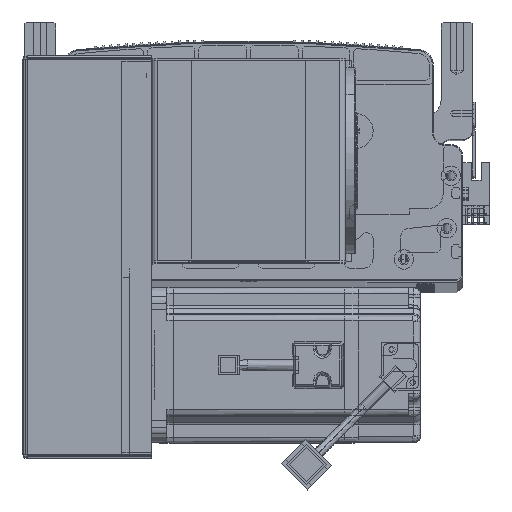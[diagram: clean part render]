
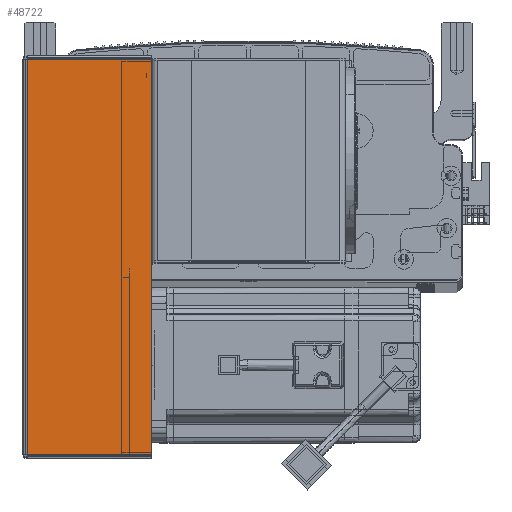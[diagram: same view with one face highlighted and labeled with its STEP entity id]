
A CAD part, top view. The second image highlights one B-rep face of the part: STEP entity #48722.
In plain terms, the highlighted planar face has unit normal (0, 0, 1) as drawn and (0, -1, 0) by its records, which use the part's own axes.
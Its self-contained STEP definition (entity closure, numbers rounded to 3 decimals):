
#4204 = EDGE_CURVE ( 'NONE', #84963, #80663, #71380, .T. ) ;
#4865 = DIRECTION ( 'NONE',  ( -1., 0., 0. ) ) ;
#7474 = DIRECTION ( 'NONE',  ( 1., 0., 0. ) ) ;
#7589 = EDGE_CURVE ( 'NONE', #84963, #72646, #76058, .T. ) ;
#8752 = ORIENTED_EDGE ( 'NONE', *, *, #84935, .T. ) ;
#14308 = DIRECTION ( 'NONE',  ( 0., 0., 1. ) ) ;
#15214 = ORIENTED_EDGE ( 'NONE', *, *, #7589, .T. ) ;
#16226 = CARTESIAN_POINT ( 'NONE',  ( 0.737, -1.5, -0.707 ) ) ;
#18337 = CARTESIAN_POINT ( 'NONE',  ( 0.737, -1.5, -203.293 ) ) ;
#23694 = DIRECTION ( 'NONE',  ( 1., 0., 0. ) ) ;
#27307 = CARTESIAN_POINT ( 'NONE',  ( 0., -1.5, 0. ) ) ;
#32956 = VECTOR ( 'NONE', #7474, 1000. ) ;
#34382 = DIRECTION ( 'NONE',  ( 0., 0., 1. ) ) ;
#38786 = CARTESIAN_POINT ( 'NONE',  ( 0., -1.5, -0.707 ) ) ;
#44485 = LINE ( 'NONE', #38786, #54134 ) ;
#45654 = CARTESIAN_POINT ( 'NONE',  ( 0., -1.5, -203.293 ) ) ;
#45985 = CARTESIAN_POINT ( 'NONE',  ( 64.5, -1.5, -203.293 ) ) ;
#48722 = ADVANCED_FACE ( 'NONE', ( #53248 ), #81822, .F. ) ;
#49880 = ORIENTED_EDGE ( 'NONE', *, *, #73691, .F. ) ;
#50733 = DIRECTION ( 'NONE',  ( 0., 1., 0. ) ) ;
#53248 = FACE_OUTER_BOUND ( 'NONE', #69906, .T. ) ;
#54134 = VECTOR ( 'NONE', #23694, 1000. ) ;
#62711 = VECTOR ( 'NONE', #34382, 1000. ) ;
#68972 = VECTOR ( 'NONE', #14308, 1000. ) ;
#69868 = VERTEX_POINT ( 'NONE', #80093 ) ;
#69906 = EDGE_LOOP ( 'NONE', ( #94363, #15214, #8752, #49880 ) ) ;
#71380 = LINE ( 'NONE', #76823, #68972 ) ;
#72646 = VERTEX_POINT ( 'NONE', #45985 ) ;
#73691 = EDGE_CURVE ( 'NONE', #80663, #69868, #44485, .T. ) ;
#76058 = LINE ( 'NONE', #45654, #32956 ) ;
#76823 = CARTESIAN_POINT ( 'NONE',  ( 0.737, -1.5, 0. ) ) ;
#79211 = CARTESIAN_POINT ( 'NONE',  ( 64.5, -1.5, 0. ) ) ;
#80073 = AXIS2_PLACEMENT_3D ( 'NONE', #27307, #50733, #4865 ) ;
#80093 = CARTESIAN_POINT ( 'NONE',  ( 64.5, -1.5, -0.707 ) ) ;
#80663 = VERTEX_POINT ( 'NONE', #16226 ) ;
#80693 = LINE ( 'NONE', #79211, #62711 ) ;
#81822 = PLANE ( 'NONE',  #80073 ) ;
#84935 = EDGE_CURVE ( 'NONE', #72646, #69868, #80693, .T. ) ;
#84963 = VERTEX_POINT ( 'NONE', #18337 ) ;
#94363 = ORIENTED_EDGE ( 'NONE', *, *, #4204, .F. ) ;
